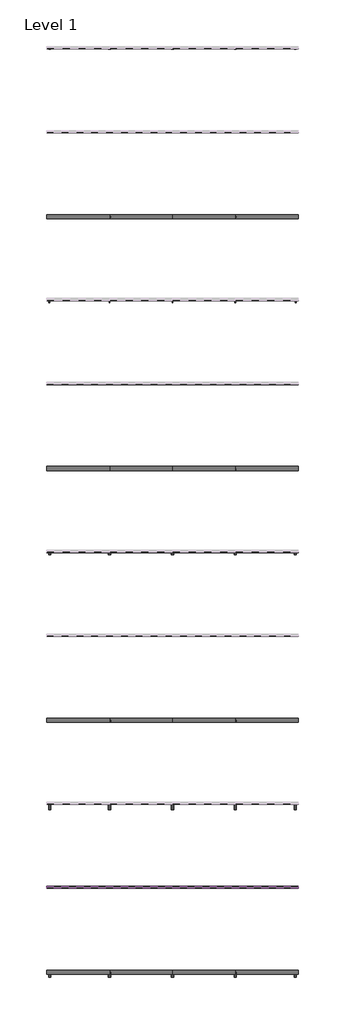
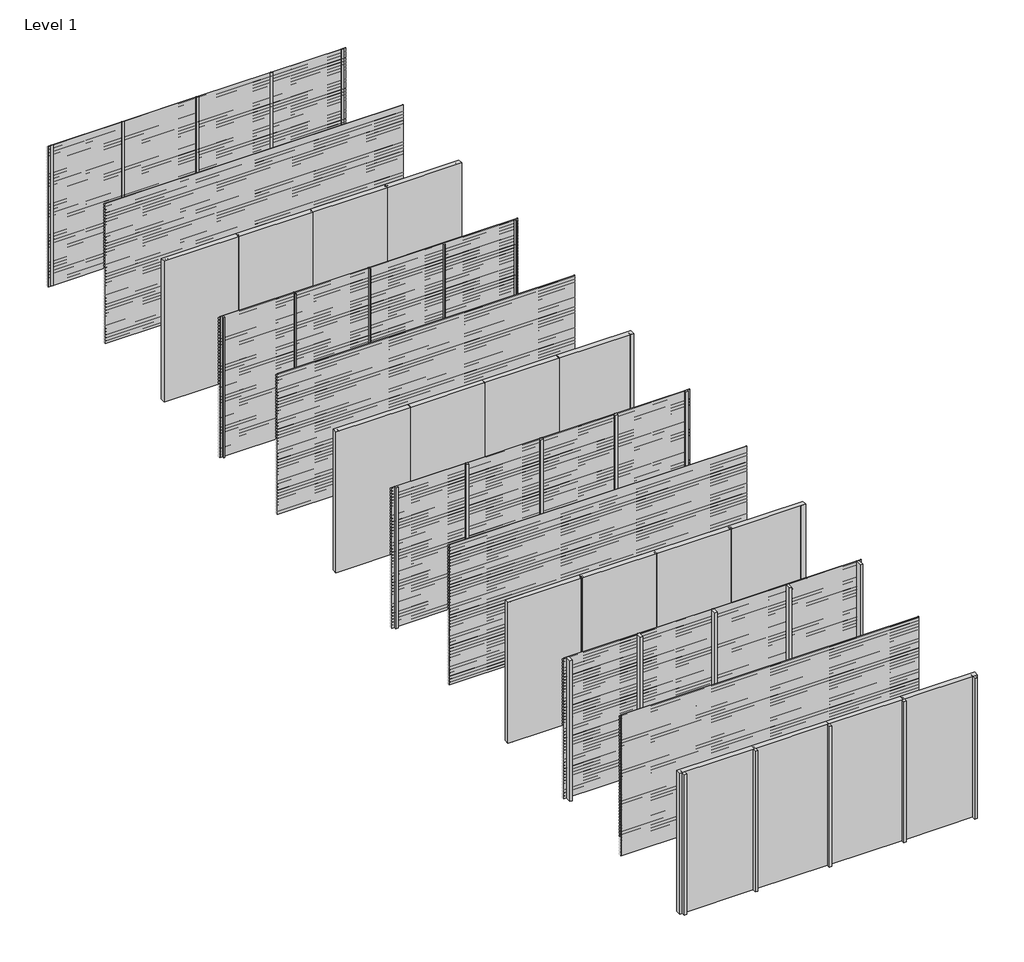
# One storey, part 1 of 10: 40 members, 40 proxies, 36 plates.
"""IFC4 building model written with IfcOpenShell, lengths in millimetres."""

from ifc_helpers import new_model, si_unit, frame, origin, origin_with_axes, place, context, project, spatial, polyline, outline, extrude, transform, mapped, element, save
from components import rectangular_mullion_bbbcbd30, rectangular_mullion_f8d4a220, rectangular_mullion_81aaf6fe, rectangular_mullion_6e08dc26, rectangular_mullion_75c52e10, rectangular_mullion_40295cf1, rectangular_mullion_7f158cb3, rectangular_mullion_66519e13, rectangular_mullion_5829b51c, rectangular_mullion_3b5b8a15, rectangular_mullion_81543344, rectangular_mullion_041a21c4, empty_system_panel_empty_ae16e1e1, empty_system_panel_empty_4cf993bc

model = new_model("IFC4")

# Units and contexts
model_context = context("Model", 3, world=origin())
ifc_project = project(units=[si_unit("LENGTHUNIT", "METRE", prefix="MILLI")], contexts=[model_context])

# Site, building, storey
site = spatial("IfcSite", under=ifc_project)
building = spatial("IfcBuilding", under=site)
storey = spatial("IfcBuildingStorey", under=building, Name="Level 1", Elevation=0.0)

# Proxies
placement = place(None, origin())
element("IfcBuildingElementProxy", 1, Name="Wall Sweeps", at=placement, inside=storey, context=model_context, shape_type="SweptSolid", body=[
    extrude(outline(polyline([(-19995.0, 2990.0), (-19995.0, 2981.2901632), (-19946.0, 2953.0), (-19946.0, 2918.0), (-19997.0, 2947.4448637), (-19997.0, 2990.0), (-19995.0, 2990.0)])), frame((0.0, 0.0, 0.0), z_axis=(1.0, 0.0, 0.0), x_axis=(0.0, 1.0, 0.0)), (0.0, 0.0, 1.0), 6000.0),
])
element("IfcBuildingElementProxy", 2, Name="Wall Sweeps", at=placement, inside=storey, context=model_context, shape_type="SweptSolid", body=[
    extrude(outline(polyline([(-19995.0, 2925.0), (-19995.0, 2916.2901632), (-19946.0, 2888.0), (-19946.0, 2853.0), (-19997.0, 2882.4448637), (-19997.0, 2925.0), (-19995.0, 2925.0)])), frame((0.0, 0.0, 0.0), z_axis=(1.0, 0.0, 0.0), x_axis=(0.0, 1.0, 0.0)), (0.0, 0.0, 1.0), 6000.0),
])
element("IfcBuildingElementProxy", 3, Name="Wall Sweeps", at=placement, inside=storey, context=model_context, shape_type="SweptSolid", body=[
    extrude(outline(polyline([(-19995.0, 2860.0), (-19995.0, 2851.2901632), (-19946.0, 2823.0), (-19946.0, 2788.0), (-19997.0, 2817.4448637), (-19997.0, 2860.0), (-19995.0, 2860.0)])), frame((0.0, 0.0, 0.0), z_axis=(1.0, 0.0, 0.0), x_axis=(0.0, 1.0, 0.0)), (0.0, 0.0, 1.0), 6000.0),
])
element("IfcBuildingElementProxy", 4, Name="Wall Sweeps", at=placement, inside=storey, context=model_context, shape_type="SweptSolid", body=[
    extrude(outline(polyline([(-19995.0, 2795.0), (-19995.0, 2786.2901632), (-19946.0, 2758.0), (-19946.0, 2723.0), (-19997.0, 2752.4448637), (-19997.0, 2795.0), (-19995.0, 2795.0)])), frame((0.0, 0.0, 0.0), z_axis=(1.0, 0.0, 0.0), x_axis=(0.0, 1.0, 0.0)), (0.0, 0.0, 1.0), 6000.0),
])
element("IfcBuildingElementProxy", 5, Name="Wall Sweeps", at=placement, inside=storey, context=model_context, shape_type="SweptSolid", body=[
    extrude(outline(polyline([(-19995.0, 2730.0), (-19995.0, 2721.2901632), (-19946.0, 2693.0), (-19946.0, 2658.0), (-19997.0, 2687.4448637), (-19997.0, 2730.0), (-19995.0, 2730.0)])), frame((0.0, 0.0, 0.0), z_axis=(1.0, 0.0, 0.0), x_axis=(0.0, 1.0, 0.0)), (0.0, 0.0, 1.0), 6000.0),
])
element("IfcBuildingElementProxy", 6, Name="Wall Sweeps", at=placement, inside=storey, context=model_context, shape_type="SweptSolid", body=[
    extrude(outline(polyline([(-19995.0, 2665.0), (-19995.0, 2656.2901632), (-19946.0, 2628.0), (-19946.0, 2593.0), (-19997.0, 2622.4448637), (-19997.0, 2665.0), (-19995.0, 2665.0)])), frame((0.0, 0.0, 0.0), z_axis=(1.0, 0.0, 0.0), x_axis=(0.0, 1.0, 0.0)), (0.0, 0.0, 1.0), 6000.0),
])
element("IfcBuildingElementProxy", 7, Name="Wall Sweeps", at=placement, inside=storey, context=model_context, shape_type="SweptSolid", body=[
    extrude(outline(polyline([(-19995.0, 2600.0), (-19995.0, 2591.2901632), (-19946.0, 2563.0), (-19946.0, 2528.0), (-19997.0, 2557.4448637), (-19997.0, 2600.0), (-19995.0, 2600.0)])), frame((0.0, 0.0, 0.0), z_axis=(1.0, 0.0, 0.0), x_axis=(0.0, 1.0, 0.0)), (0.0, 0.0, 1.0), 6000.0),
])
element("IfcBuildingElementProxy", 8, Name="Wall Sweeps", at=placement, inside=storey, context=model_context, shape_type="SweptSolid", body=[
    extrude(outline(polyline([(-19995.0, 2535.0), (-19995.0, 2526.2901632), (-19946.0, 2498.0), (-19946.0, 2463.0), (-19997.0, 2492.4448637), (-19997.0, 2535.0), (-19995.0, 2535.0)])), frame((0.0, 0.0, 0.0), z_axis=(1.0, 0.0, 0.0), x_axis=(0.0, 1.0, 0.0)), (0.0, 0.0, 1.0), 6000.0),
])
element("IfcBuildingElementProxy", 9, Name="Wall Sweeps", at=placement, inside=storey, context=model_context, shape_type="SweptSolid", body=[
    extrude(outline(polyline([(-19995.0, 2470.0), (-19995.0, 2461.2901632), (-19946.0, 2433.0), (-19946.0, 2398.0), (-19997.0, 2427.4448637), (-19997.0, 2470.0), (-19995.0, 2470.0)])), frame((0.0, 0.0, 0.0), z_axis=(1.0, 0.0, 0.0), x_axis=(0.0, 1.0, 0.0)), (0.0, 0.0, 1.0), 6000.0),
])
element("IfcBuildingElementProxy", 10, Name="Wall Sweeps", at=placement, inside=storey, context=model_context, shape_type="SweptSolid", body=[
    extrude(outline(polyline([(-19995.0, 2405.0), (-19995.0, 2396.2901632), (-19946.0, 2368.0), (-19946.0, 2333.0), (-19997.0, 2362.4448637), (-19997.0, 2405.0), (-19995.0, 2405.0)])), frame((0.0, 0.0, 0.0), z_axis=(1.0, 0.0, 0.0), x_axis=(0.0, 1.0, 0.0)), (0.0, 0.0, 1.0), 6000.0),
])
element("IfcBuildingElementProxy", 11, Name="Wall Sweeps", at=placement, inside=storey, context=model_context, shape_type="SweptSolid", body=[
    extrude(outline(polyline([(-19995.0, 2340.0), (-19995.0, 2331.2901632), (-19946.0, 2303.0), (-19946.0, 2268.0), (-19997.0, 2297.4448637), (-19997.0, 2340.0), (-19995.0, 2340.0)])), frame((0.0, 0.0, 0.0), z_axis=(1.0, 0.0, 0.0), x_axis=(0.0, 1.0, 0.0)), (0.0, 0.0, 1.0), 6000.0),
])
element("IfcBuildingElementProxy", 12, Name="Wall Sweeps", at=placement, inside=storey, context=model_context, shape_type="SweptSolid", body=[
    extrude(outline(polyline([(-19995.0, 2275.0), (-19995.0, 2266.2901632), (-19946.0, 2238.0), (-19946.0, 2203.0), (-19997.0, 2232.4448637), (-19997.0, 2275.0), (-19995.0, 2275.0)])), frame((0.0, 0.0, 0.0), z_axis=(1.0, 0.0, 0.0), x_axis=(0.0, 1.0, 0.0)), (0.0, 0.0, 1.0), 6000.0),
])
element("IfcBuildingElementProxy", 13, Name="Wall Sweeps", at=placement, inside=storey, context=model_context, shape_type="SweptSolid", body=[
    extrude(outline(polyline([(-19995.0, 2210.0), (-19995.0, 2201.2901632), (-19946.0, 2173.0), (-19946.0, 2138.0), (-19997.0, 2167.4448637), (-19997.0, 2210.0), (-19995.0, 2210.0)])), frame((0.0, 0.0, 0.0), z_axis=(1.0, 0.0, 0.0), x_axis=(0.0, 1.0, 0.0)), (0.0, 0.0, 1.0), 6000.0),
])
element("IfcBuildingElementProxy", 14, Name="Wall Sweeps", at=placement, inside=storey, context=model_context, shape_type="SweptSolid", body=[
    extrude(outline(polyline([(-19995.0, 2145.0), (-19995.0, 2136.2901632), (-19946.0, 2108.0), (-19946.0, 2073.0), (-19997.0, 2102.4448637), (-19997.0, 2145.0), (-19995.0, 2145.0)])), frame((0.0, 0.0, 0.0), z_axis=(1.0, 0.0, 0.0), x_axis=(0.0, 1.0, 0.0)), (0.0, 0.0, 1.0), 6000.0),
])
element("IfcBuildingElementProxy", 15, Name="Wall Sweeps", at=placement, inside=storey, context=model_context, shape_type="SweptSolid", body=[
    extrude(outline(polyline([(-19995.0, 2080.0), (-19995.0, 2071.2901632), (-19946.0, 2043.0), (-19946.0, 2008.0), (-19997.0, 2037.4448637), (-19997.0, 2080.0), (-19995.0, 2080.0)])), frame((0.0, 0.0, 0.0), z_axis=(1.0, 0.0, 0.0), x_axis=(0.0, 1.0, 0.0)), (0.0, 0.0, 1.0), 6000.0),
])
element("IfcBuildingElementProxy", 16, Name="Wall Sweeps", at=placement, inside=storey, context=model_context, shape_type="SweptSolid", body=[
    extrude(outline(polyline([(-19995.0, 2015.0), (-19995.0, 2006.2901632), (-19946.0, 1978.0), (-19946.0, 1943.0), (-19997.0, 1972.4448637), (-19997.0, 2015.0), (-19995.0, 2015.0)])), frame((0.0, 0.0, 0.0), z_axis=(1.0, 0.0, 0.0), x_axis=(0.0, 1.0, 0.0)), (0.0, 0.0, 1.0), 6000.0),
])
element("IfcBuildingElementProxy", 17, Name="Wall Sweeps", at=placement, inside=storey, context=model_context, shape_type="SweptSolid", body=[
    extrude(outline(polyline([(-19995.0, 1950.0), (-19995.0, 1941.2901632), (-19946.0, 1913.0), (-19946.0, 1878.0), (-19997.0, 1907.4448637), (-19997.0, 1950.0), (-19995.0, 1950.0)])), frame((0.0, 0.0, 0.0), z_axis=(1.0, 0.0, 0.0), x_axis=(0.0, 1.0, 0.0)), (0.0, 0.0, 1.0), 6000.0),
])
element("IfcBuildingElementProxy", 18, Name="Wall Sweeps", at=placement, inside=storey, context=model_context, shape_type="SweptSolid", body=[
    extrude(outline(polyline([(-19995.0, 1885.0), (-19995.0, 1876.2901632), (-19946.0, 1848.0), (-19946.0, 1813.0), (-19997.0, 1842.4448637), (-19997.0, 1885.0), (-19995.0, 1885.0)])), frame((0.0, 0.0, 0.0), z_axis=(1.0, 0.0, 0.0), x_axis=(0.0, 1.0, 0.0)), (0.0, 0.0, 1.0), 6000.0),
])
element("IfcBuildingElementProxy", 19, Name="Wall Sweeps", at=placement, inside=storey, context=model_context, shape_type="SweptSolid", body=[
    extrude(outline(polyline([(-19995.0, 1820.0), (-19995.0, 1811.2901632), (-19946.0, 1783.0), (-19946.0, 1748.0), (-19997.0, 1777.4448637), (-19997.0, 1820.0), (-19995.0, 1820.0)])), frame((0.0, 0.0, 0.0), z_axis=(1.0, 0.0, 0.0), x_axis=(0.0, 1.0, 0.0)), (0.0, 0.0, 1.0), 6000.0),
])
element("IfcBuildingElementProxy", 20, Name="Wall Sweeps", at=placement, inside=storey, context=model_context, shape_type="SweptSolid", body=[
    extrude(outline(polyline([(-19995.0, 1755.0), (-19995.0, 1746.2901632), (-19946.0, 1718.0), (-19946.0, 1683.0), (-19997.0, 1712.4448637), (-19997.0, 1755.0), (-19995.0, 1755.0)])), frame((0.0, 0.0, 0.0), z_axis=(1.0, 0.0, 0.0), x_axis=(0.0, 1.0, 0.0)), (0.0, 0.0, 1.0), 6000.0),
])
element("IfcBuildingElementProxy", 21, Name="Wall Sweeps", at=placement, inside=storey, context=model_context, shape_type="SweptSolid", body=[
    extrude(outline(polyline([(-19995.0, 1690.0), (-19995.0, 1681.2901632), (-19946.0, 1653.0), (-19946.0, 1618.0), (-19997.0, 1647.4448637), (-19997.0, 1690.0), (-19995.0, 1690.0)])), frame((0.0, 0.0, 0.0), z_axis=(1.0, 0.0, 0.0), x_axis=(0.0, 1.0, 0.0)), (0.0, 0.0, 1.0), 6000.0),
])
element("IfcBuildingElementProxy", 22, Name="Wall Sweeps", at=placement, inside=storey, context=model_context, shape_type="SweptSolid", body=[
    extrude(outline(polyline([(-19995.0, 1625.0), (-19995.0, 1616.2901632), (-19946.0, 1588.0), (-19946.0, 1553.0), (-19997.0, 1582.4448637), (-19997.0, 1625.0), (-19995.0, 1625.0)])), frame((0.0, 0.0, 0.0), z_axis=(1.0, 0.0, 0.0), x_axis=(0.0, 1.0, 0.0)), (0.0, 0.0, 1.0), 6000.0),
])
element("IfcBuildingElementProxy", 23, Name="Wall Sweeps", at=placement, inside=storey, context=model_context, shape_type="SweptSolid", body=[
    extrude(outline(polyline([(-19995.0, 1560.0), (-19995.0, 1551.2901632), (-19946.0, 1523.0), (-19946.0, 1488.0), (-19997.0, 1517.4448637), (-19997.0, 1560.0), (-19995.0, 1560.0)])), frame((0.0, 0.0, 0.0), z_axis=(1.0, 0.0, 0.0), x_axis=(0.0, 1.0, 0.0)), (0.0, 0.0, 1.0), 6000.0),
])
element("IfcBuildingElementProxy", 24, Name="Wall Sweeps", at=placement, inside=storey, context=model_context, shape_type="SweptSolid", body=[
    extrude(outline(polyline([(-19995.0, 1495.0), (-19995.0, 1486.2901632), (-19946.0, 1458.0), (-19946.0, 1423.0), (-19997.0, 1452.4448637), (-19997.0, 1495.0), (-19995.0, 1495.0)])), frame((0.0, 0.0, 0.0), z_axis=(1.0, 0.0, 0.0), x_axis=(0.0, 1.0, 0.0)), (0.0, 0.0, 1.0), 6000.0),
])
element("IfcBuildingElementProxy", 25, Name="Wall Sweeps", at=placement, inside=storey, context=model_context, shape_type="SweptSolid", body=[
    extrude(outline(polyline([(-19995.0, 1430.0), (-19995.0, 1421.2901632), (-19946.0, 1393.0), (-19946.0, 1358.0), (-19997.0, 1387.4448637), (-19997.0, 1430.0), (-19995.0, 1430.0)])), frame((0.0, 0.0, 0.0), z_axis=(1.0, 0.0, 0.0), x_axis=(0.0, 1.0, 0.0)), (0.0, 0.0, 1.0), 6000.0),
])
element("IfcBuildingElementProxy", 26, Name="Wall Sweeps", at=placement, inside=storey, context=model_context, shape_type="SweptSolid", body=[
    extrude(outline(polyline([(-19995.0, 1365.0), (-19995.0, 1356.2901632), (-19946.0, 1328.0), (-19946.0, 1293.0), (-19997.0, 1322.4448637), (-19997.0, 1365.0), (-19995.0, 1365.0)])), frame((0.0, 0.0, 0.0), z_axis=(1.0, 0.0, 0.0), x_axis=(0.0, 1.0, 0.0)), (0.0, 0.0, 1.0), 6000.0),
])
element("IfcBuildingElementProxy", 27, Name="Wall Sweeps", at=placement, inside=storey, context=model_context, shape_type="SweptSolid", body=[
    extrude(outline(polyline([(-19995.0, 1300.0), (-19995.0, 1291.2901632), (-19946.0, 1263.0), (-19946.0, 1228.0), (-19997.0, 1257.4448637), (-19997.0, 1300.0), (-19995.0, 1300.0)])), frame((0.0, 0.0, 0.0), z_axis=(1.0, 0.0, 0.0), x_axis=(0.0, 1.0, 0.0)), (0.0, 0.0, 1.0), 6000.0),
])
element("IfcBuildingElementProxy", 28, Name="Wall Sweeps", at=placement, inside=storey, context=model_context, shape_type="SweptSolid", body=[
    extrude(outline(polyline([(-19995.0, 1235.0), (-19995.0, 1226.2901632), (-19946.0, 1198.0), (-19946.0, 1163.0), (-19997.0, 1192.4448637), (-19997.0, 1235.0), (-19995.0, 1235.0)])), frame((0.0, 0.0, 0.0), z_axis=(1.0, 0.0, 0.0), x_axis=(0.0, 1.0, 0.0)), (0.0, 0.0, 1.0), 6000.0),
])
element("IfcBuildingElementProxy", 29, Name="Wall Sweeps", at=placement, inside=storey, context=model_context, shape_type="SweptSolid", body=[
    extrude(outline(polyline([(-19995.0, 1170.0), (-19995.0, 1161.2901632), (-19946.0, 1133.0), (-19946.0, 1098.0), (-19997.0, 1127.4448637), (-19997.0, 1170.0), (-19995.0, 1170.0)])), frame((0.0, 0.0, 0.0), z_axis=(1.0, 0.0, 0.0), x_axis=(0.0, 1.0, 0.0)), (0.0, 0.0, 1.0), 6000.0),
])
element("IfcBuildingElementProxy", 30, Name="Wall Sweeps", at=placement, inside=storey, context=model_context, shape_type="SweptSolid", body=[
    extrude(outline(polyline([(-19995.0, 1105.0), (-19995.0, 1096.2901632), (-19946.0, 1068.0), (-19946.0, 1033.0), (-19997.0, 1062.4448637), (-19997.0, 1105.0), (-19995.0, 1105.0)])), frame((0.0, 0.0, 0.0), z_axis=(1.0, 0.0, 0.0), x_axis=(0.0, 1.0, 0.0)), (0.0, 0.0, 1.0), 6000.0),
])
element("IfcBuildingElementProxy", 31, Name="Wall Sweeps", at=placement, inside=storey, context=model_context, shape_type="SweptSolid", body=[
    extrude(outline(polyline([(-19995.0, 1040.0), (-19995.0, 1031.2901632), (-19946.0, 1003.0), (-19946.0, 968.0), (-19997.0, 997.4448637), (-19997.0, 1040.0), (-19995.0, 1040.0)])), frame((0.0, 0.0, 0.0), z_axis=(1.0, 0.0, 0.0), x_axis=(0.0, 1.0, 0.0)), (0.0, 0.0, 1.0), 6000.0),
])
element("IfcBuildingElementProxy", 32, Name="Wall Sweeps", at=placement, inside=storey, context=model_context, shape_type="SweptSolid", body=[
    extrude(outline(polyline([(-19995.0, 975.0), (-19995.0, 966.2901632), (-19946.0, 938.0), (-19946.0, 903.0), (-19997.0, 932.4448637), (-19997.0, 975.0), (-19995.0, 975.0)])), frame((0.0, 0.0, 0.0), z_axis=(1.0, 0.0, 0.0), x_axis=(0.0, 1.0, 0.0)), (0.0, 0.0, 1.0), 6000.0),
])
element("IfcBuildingElementProxy", 33, Name="Wall Sweeps", at=placement, inside=storey, context=model_context, shape_type="SweptSolid", body=[
    extrude(outline(polyline([(-19995.0, 910.0), (-19995.0, 901.2901632), (-19946.0, 873.0), (-19946.0, 838.0), (-19997.0, 867.4448637), (-19997.0, 910.0), (-19995.0, 910.0)])), frame((0.0, 0.0, 0.0), z_axis=(1.0, 0.0, 0.0), x_axis=(0.0, 1.0, 0.0)), (0.0, 0.0, 1.0), 6000.0),
])
element("IfcBuildingElementProxy", 34, Name="Wall Sweeps", at=placement, inside=storey, context=model_context, shape_type="SweptSolid", body=[
    extrude(outline(polyline([(-19995.0, 845.0), (-19995.0, 836.2901632), (-19946.0, 808.0), (-19946.0, 773.0), (-19997.0, 802.4448637), (-19997.0, 845.0), (-19995.0, 845.0)])), frame((0.0, 0.0, 0.0), z_axis=(1.0, 0.0, 0.0), x_axis=(0.0, 1.0, 0.0)), (0.0, 0.0, 1.0), 6000.0),
])
element("IfcBuildingElementProxy", 35, Name="Wall Sweeps", at=placement, inside=storey, context=model_context, shape_type="SweptSolid", body=[
    extrude(outline(polyline([(-19995.0, 780.0), (-19995.0, 771.2901632), (-19946.0, 743.0), (-19946.0, 708.0), (-19997.0, 737.4448637), (-19997.0, 780.0), (-19995.0, 780.0)])), frame((0.0, 0.0, 0.0), z_axis=(1.0, 0.0, 0.0), x_axis=(0.0, 1.0, 0.0)), (0.0, 0.0, 1.0), 6000.0),
])
element("IfcBuildingElementProxy", 36, Name="Wall Sweeps", at=placement, inside=storey, context=model_context, shape_type="SweptSolid", body=[
    extrude(outline(polyline([(-19995.0, 715.0), (-19995.0, 706.2901632), (-19946.0, 678.0), (-19946.0, 643.0), (-19997.0, 672.4448637), (-19997.0, 715.0), (-19995.0, 715.0)])), frame((0.0, 0.0, 0.0), z_axis=(1.0, 0.0, 0.0), x_axis=(0.0, 1.0, 0.0)), (0.0, 0.0, 1.0), 6000.0),
])
element("IfcBuildingElementProxy", 37, Name="Wall Sweeps", at=placement, inside=storey, context=model_context, shape_type="SweptSolid", body=[
    extrude(outline(polyline([(-19995.0, 650.0), (-19995.0, 641.2901632), (-19946.0, 613.0), (-19946.0, 578.0), (-19997.0, 607.4448637), (-19997.0, 650.0), (-19995.0, 650.0)])), frame((0.0, 0.0, 0.0), z_axis=(1.0, 0.0, 0.0), x_axis=(0.0, 1.0, 0.0)), (0.0, 0.0, 1.0), 6000.0),
])
element("IfcBuildingElementProxy", 38, Name="Wall Sweeps", at=placement, inside=storey, context=model_context, shape_type="SweptSolid", body=[
    extrude(outline(polyline([(-19995.0, 585.0), (-19995.0, 576.2901632), (-19946.0, 548.0), (-19946.0, 513.0), (-19997.0, 542.4448637), (-19997.0, 585.0), (-19995.0, 585.0)])), frame((0.0, 0.0, 0.0), z_axis=(1.0, 0.0, 0.0), x_axis=(0.0, 1.0, 0.0)), (0.0, 0.0, 1.0), 6000.0),
])
element("IfcBuildingElementProxy", 39, Name="Wall Sweeps", at=placement, inside=storey, context=model_context, shape_type="SweptSolid", body=[
    extrude(outline(polyline([(-19995.0, 520.0), (-19995.0, 511.2901632), (-19946.0, 483.0), (-19946.0, 448.0), (-19997.0, 477.4448637), (-19997.0, 520.0), (-19995.0, 520.0)])), frame((0.0, 0.0, 0.0), z_axis=(1.0, 0.0, 0.0), x_axis=(0.0, 1.0, 0.0)), (0.0, 0.0, 1.0), 6000.0),
])
element("IfcBuildingElementProxy", 40, Name="Wall Sweeps", at=placement, inside=storey, context=model_context, shape_type="SweptSolid", body=[
    extrude(outline(polyline([(-19995.0, 455.0), (-19995.0, 446.2901632), (-19946.0, 418.0), (-19946.0, 383.0), (-19997.0, 412.4448637), (-19997.0, 455.0), (-19995.0, 455.0)])), frame((0.0, 0.0, 0.0), z_axis=(1.0, 0.0, 0.0), x_axis=(0.0, 1.0, 0.0)), (0.0, 0.0, 1.0), 6000.0),
])

# Members
rectangular_mullion_shape = rectangular_mullion_bbbcbd30(model_context)
element("IfcMember", 41, ObjectType="Rectangular Mullion : RSen_21_CWM_support profile - 50x12 - left_gen_duco projects", at=placement, inside=storey, context=model_context, shape_type="MappedRepresentation", body=[
    mapped(rectangular_mullion_shape, transform((0.0, 0.0, 0.0), x_axis=(-1.0, 0.0, 0.0), y_axis=(0.0, 1.0, 0.0), z_axis=(0.0, 0.0, -1.0))),
])
element("IfcMember", 42, ObjectType="Rectangular Mullion : RSen_21_CWM_support profile - 50x12 - left_gen_duco projects", at=placement, inside=storey, context=model_context, shape_type="MappedRepresentation", body=[
    mapped(rectangular_mullion_shape, transform((0.0, -4000.0, 0.0), x_axis=(-1.0, 0.0, 0.0), y_axis=(0.0, 1.0, 0.0), z_axis=(0.0, 0.0, -1.0))),
])
rectangular_mullion_2_shape = rectangular_mullion_f8d4a220(model_context)
element("IfcMember", 43, ObjectType="Rectangular Mullion : RSen_21_CWM_support profile - 50x12 - right_gen_duco projects", at=placement, inside=storey, context=model_context, shape_type="MappedRepresentation", body=[
    mapped(rectangular_mullion_2_shape, transform((6000.0, 0.0, 3000.0), x_axis=(1.0, 0.0, 0.0), y_axis=(0.0, 1.0, 0.0), z_axis=(0.0, 0.0, 1.0))),
])
element("IfcMember", 44, ObjectType="Rectangular Mullion : RSen_21_CWM_support profile - 50x12 - right_gen_duco projects", at=placement, inside=storey, context=model_context, shape_type="MappedRepresentation", body=[
    mapped(rectangular_mullion_2_shape, transform((6000.0, -4000.0, 3000.0), x_axis=(1.0, 0.0, 0.0), y_axis=(0.0, 1.0, 0.0), z_axis=(0.0, 0.0, 1.0))),
])
rectangular_mullion_3_shape = rectangular_mullion_81aaf6fe(model_context)
element("IfcMember", 45, ObjectType="Rectangular Mullion : RSen_21_CWM_support profile - 21x50 Multi - left_gen_duco projects", at=placement, inside=storey, context=model_context, shape_type="MappedRepresentation", body=[
    mapped(rectangular_mullion_3_shape, transform((0.0, -6000.0, 0.0), x_axis=(-1.0, 0.0, 0.0), y_axis=(0.0, 1.0, 0.0), z_axis=(0.0, 0.0, -1.0))),
])
element("IfcMember", 46, ObjectType="Rectangular Mullion : RSen_21_CWM_support profile - 21x50 Multi - left_gen_duco projects", at=placement, inside=storey, context=model_context, shape_type="MappedRepresentation", body=[
    mapped(rectangular_mullion_3_shape, transform((0.0, -10000.0, 0.0), x_axis=(-1.0, 0.0, 0.0), y_axis=(0.0, 1.0, 0.0), z_axis=(0.0, 0.0, -1.0))),
])
rectangular_mullion_4_shape = rectangular_mullion_6e08dc26(model_context)
element("IfcMember", 47, ObjectType="Rectangular Mullion : RSen_21_CWM_support profile - 21x50 Multi - right_gen_duco projects", at=placement, inside=storey, context=model_context, shape_type="MappedRepresentation", body=[
    mapped(rectangular_mullion_4_shape, transform((6000.0, -6000.0, 3000.0), x_axis=(1.0, 0.0, 0.0), y_axis=(0.0, 1.0, 0.0), z_axis=(0.0, 0.0, 1.0))),
])
element("IfcMember", 48, ObjectType="Rectangular Mullion : RSen_21_CWM_support profile - 21x50 Multi - right_gen_duco projects", at=placement, inside=storey, context=model_context, shape_type="MappedRepresentation", body=[
    mapped(rectangular_mullion_4_shape, transform((6000.0, -10000.0, 3000.0), x_axis=(1.0, 0.0, 0.0), y_axis=(0.0, 1.0, 0.0), z_axis=(0.0, 0.0, 1.0))),
])
rectangular_mullion_5_shape = rectangular_mullion_75c52e10(model_context)
element("IfcMember", 49, ObjectType="Rectangular Mullion : RSen_21_CWM_support profile - 50x50 - left_gen_duco projects", at=placement, inside=storey, context=model_context, shape_type="MappedRepresentation", body=[
    mapped(rectangular_mullion_5_shape, transform((0.0, -12000.0, 0.0), x_axis=(-1.0, 0.0, 0.0), y_axis=(0.0, 1.0, 0.0), z_axis=(0.0, 0.0, -1.0))),
])
element("IfcMember", 50, ObjectType="Rectangular Mullion : RSen_21_CWM_support profile - 50x50 - left_gen_duco projects", at=placement, inside=storey, context=model_context, shape_type="MappedRepresentation", body=[
    mapped(rectangular_mullion_5_shape, transform((0.0, -16000.0, 0.0), x_axis=(-1.0, 0.0, 0.0), y_axis=(0.0, 1.0, 0.0), z_axis=(0.0, 0.0, -1.0))),
])
rectangular_mullion_6_shape = rectangular_mullion_40295cf1(model_context)
element("IfcMember", 51, ObjectType="Rectangular Mullion : RSen_21_CWM_support profile - 50x50 - right_gen_duco projects", at=placement, inside=storey, context=model_context, shape_type="MappedRepresentation", body=[
    mapped(rectangular_mullion_6_shape, transform((6000.0, -12000.0, 3000.0), x_axis=(1.0, 0.0, 0.0), y_axis=(0.0, 1.0, 0.0), z_axis=(0.0, 0.0, 1.0))),
])
element("IfcMember", 52, ObjectType="Rectangular Mullion : RSen_21_CWM_support profile - 50x50 - right_gen_duco projects", at=placement, inside=storey, context=model_context, shape_type="MappedRepresentation", body=[
    mapped(rectangular_mullion_6_shape, transform((6000.0, -16000.0, 3000.0), x_axis=(1.0, 0.0, 0.0), y_axis=(0.0, 1.0, 0.0), z_axis=(0.0, 0.0, 1.0))),
])
rectangular_mullion_7_shape = rectangular_mullion_7f158cb3(model_context)
element("IfcMember", 53, ObjectType="Rectangular Mullion : RSen_21_CWM_support profile - 50x12_gen_duco projects", at=placement, inside=storey, context=model_context, shape_type="MappedRepresentation", body=[
    mapped(rectangular_mullion_7_shape, transform((4500.0, 0.0, 0.0), x_axis=(-1.0, 0.0, 0.0), y_axis=(0.0, 1.0, 0.0), z_axis=(0.0, 0.0, -1.0))),
])
element("IfcMember", 54, ObjectType="Rectangular Mullion : RSen_21_CWM_support profile - 50x12_gen_duco projects", at=placement, inside=storey, context=model_context, shape_type="MappedRepresentation", body=[
    mapped(rectangular_mullion_7_shape, transform((3000.0, 0.0, 0.0), x_axis=(-1.0, 0.0, 0.0), y_axis=(0.0, 1.0, 0.0), z_axis=(0.0, 0.0, -1.0))),
])
element("IfcMember", 55, ObjectType="Rectangular Mullion : RSen_21_CWM_support profile - 50x12_gen_duco projects", at=placement, inside=storey, context=model_context, shape_type="MappedRepresentation", body=[
    mapped(rectangular_mullion_7_shape, transform((1500.0, 0.0, 0.0), x_axis=(-1.0, 0.0, 0.0), y_axis=(0.0, 1.0, 0.0), z_axis=(0.0, 0.0, -1.0))),
])
element("IfcMember", 56, ObjectType="Rectangular Mullion : RSen_21_CWM_support profile - 50x12_gen_duco projects", at=placement, inside=storey, context=model_context, shape_type="MappedRepresentation", body=[
    mapped(rectangular_mullion_7_shape, transform((4500.0, -4000.0, 0.0), x_axis=(-1.0, 0.0, 0.0), y_axis=(0.0, 1.0, 0.0), z_axis=(0.0, 0.0, -1.0))),
])
element("IfcMember", 57, ObjectType="Rectangular Mullion : RSen_21_CWM_support profile - 50x12_gen_duco projects", at=placement, inside=storey, context=model_context, shape_type="MappedRepresentation", body=[
    mapped(rectangular_mullion_7_shape, transform((3000.0, -4000.0, 0.0), x_axis=(-1.0, 0.0, 0.0), y_axis=(0.0, 1.0, 0.0), z_axis=(0.0, 0.0, -1.0))),
])
element("IfcMember", 58, ObjectType="Rectangular Mullion : RSen_21_CWM_support profile - 50x12_gen_duco projects", at=placement, inside=storey, context=model_context, shape_type="MappedRepresentation", body=[
    mapped(rectangular_mullion_7_shape, transform((1500.0, -4000.0, 0.0), x_axis=(-1.0, 0.0, 0.0), y_axis=(0.0, 1.0, 0.0), z_axis=(0.0, 0.0, -1.0))),
])
rectangular_mullion_8_shape = rectangular_mullion_66519e13(model_context)
element("IfcMember", 59, ObjectType="Rectangular Mullion : RSen_21_CWM_support profile - 21x50 Multi_gen_duco projects", at=placement, inside=storey, context=model_context, shape_type="MappedRepresentation", body=[
    mapped(rectangular_mullion_8_shape, transform((4500.0, -6000.0, 0.0), x_axis=(-1.0, 0.0, 0.0), y_axis=(0.0, 1.0, 0.0), z_axis=(0.0, 0.0, -1.0))),
])
element("IfcMember", 60, ObjectType="Rectangular Mullion : RSen_21_CWM_support profile - 21x50 Multi_gen_duco projects", at=placement, inside=storey, context=model_context, shape_type="MappedRepresentation", body=[
    mapped(rectangular_mullion_8_shape, transform((3000.0, -6000.0, 0.0), x_axis=(-1.0, 0.0, 0.0), y_axis=(0.0, 1.0, 0.0), z_axis=(0.0, 0.0, -1.0))),
])
element("IfcMember", 61, ObjectType="Rectangular Mullion : RSen_21_CWM_support profile - 21x50 Multi_gen_duco projects", at=placement, inside=storey, context=model_context, shape_type="MappedRepresentation", body=[
    mapped(rectangular_mullion_8_shape, transform((1500.0, -6000.0, 0.0), x_axis=(-1.0, 0.0, 0.0), y_axis=(0.0, 1.0, 0.0), z_axis=(0.0, 0.0, -1.0))),
])
element("IfcMember", 62, ObjectType="Rectangular Mullion : RSen_21_CWM_support profile - 21x50 Multi_gen_duco projects", at=placement, inside=storey, context=model_context, shape_type="MappedRepresentation", body=[
    mapped(rectangular_mullion_8_shape, transform((4500.0, -10000.0, 0.0), x_axis=(-1.0, 0.0, 0.0), y_axis=(0.0, 1.0, 0.0), z_axis=(0.0, 0.0, -1.0))),
])
element("IfcMember", 63, ObjectType="Rectangular Mullion : RSen_21_CWM_support profile - 21x50 Multi_gen_duco projects", at=placement, inside=storey, context=model_context, shape_type="MappedRepresentation", body=[
    mapped(rectangular_mullion_8_shape, transform((3000.0, -10000.0, 0.0), x_axis=(-1.0, 0.0, 0.0), y_axis=(0.0, 1.0, 0.0), z_axis=(0.0, 0.0, -1.0))),
])
element("IfcMember", 64, ObjectType="Rectangular Mullion : RSen_21_CWM_support profile - 21x50 Multi_gen_duco projects", at=placement, inside=storey, context=model_context, shape_type="MappedRepresentation", body=[
    mapped(rectangular_mullion_8_shape, transform((1500.0, -10000.0, 0.0), x_axis=(-1.0, 0.0, 0.0), y_axis=(0.0, 1.0, 0.0), z_axis=(0.0, 0.0, -1.0))),
])
rectangular_mullion_9_shape = rectangular_mullion_5829b51c(model_context)
element("IfcMember", 65, ObjectType="Rectangular Mullion : RSen_21_CWM_support profile - 50x50_gen_duco projects", at=placement, inside=storey, context=model_context, shape_type="MappedRepresentation", body=[
    mapped(rectangular_mullion_9_shape, transform((4500.0, -12000.0, 0.0), x_axis=(-1.0, 0.0, 0.0), y_axis=(0.0, 1.0, 0.0), z_axis=(0.0, 0.0, -1.0))),
])
element("IfcMember", 66, ObjectType="Rectangular Mullion : RSen_21_CWM_support profile - 50x50_gen_duco projects", at=placement, inside=storey, context=model_context, shape_type="MappedRepresentation", body=[
    mapped(rectangular_mullion_9_shape, transform((3000.0, -12000.0, 0.0), x_axis=(-1.0, 0.0, 0.0), y_axis=(0.0, 1.0, 0.0), z_axis=(0.0, 0.0, -1.0))),
])
element("IfcMember", 67, ObjectType="Rectangular Mullion : RSen_21_CWM_support profile - 50x50_gen_duco projects", at=placement, inside=storey, context=model_context, shape_type="MappedRepresentation", body=[
    mapped(rectangular_mullion_9_shape, transform((1500.0, -12000.0, 0.0), x_axis=(-1.0, 0.0, 0.0), y_axis=(0.0, 1.0, 0.0), z_axis=(0.0, 0.0, -1.0))),
])
element("IfcMember", 68, ObjectType="Rectangular Mullion : RSen_21_CWM_support profile - 50x50_gen_duco projects", at=placement, inside=storey, context=model_context, shape_type="MappedRepresentation", body=[
    mapped(rectangular_mullion_9_shape, transform((4500.0, -16000.0, 0.0), x_axis=(-1.0, 0.0, 0.0), y_axis=(0.0, 1.0, 0.0), z_axis=(0.0, 0.0, -1.0))),
])
element("IfcMember", 69, ObjectType="Rectangular Mullion : RSen_21_CWM_support profile - 50x50_gen_duco projects", at=placement, inside=storey, context=model_context, shape_type="MappedRepresentation", body=[
    mapped(rectangular_mullion_9_shape, transform((3000.0, -16000.0, 0.0), x_axis=(-1.0, 0.0, 0.0), y_axis=(0.0, 1.0, 0.0), z_axis=(0.0, 0.0, -1.0))),
])
element("IfcMember", 70, ObjectType="Rectangular Mullion : RSen_21_CWM_support profile - 50x50_gen_duco projects", at=placement, inside=storey, context=model_context, shape_type="MappedRepresentation", body=[
    mapped(rectangular_mullion_9_shape, transform((1500.0, -16000.0, 0.0), x_axis=(-1.0, 0.0, 0.0), y_axis=(0.0, 1.0, 0.0), z_axis=(0.0, 0.0, -1.0))),
])
rectangular_mullion_10_shape = rectangular_mullion_3b5b8a15(model_context)
element("IfcMember", 71, ObjectType="Rectangular Mullion : RSen_21_CWM_support profile - 50x125_gen_duco projects", at=placement, inside=storey, context=model_context, shape_type="MappedRepresentation", body=[
    mapped(rectangular_mullion_10_shape, transform((1500.0000002, -18000.0, 0.0), x_axis=(1.0, 0.0, 0.0), y_axis=(0.0, -1.0, 0.0), z_axis=(0.0, 0.0, -1.0))),
])
element("IfcMember", 72, ObjectType="Rectangular Mullion : RSen_21_CWM_support profile - 50x125_gen_duco projects", at=placement, inside=storey, context=model_context, shape_type="MappedRepresentation", body=[
    mapped(rectangular_mullion_10_shape, transform((3000.0, -18000.0, 0.0), x_axis=(1.0, 0.0, 0.0), y_axis=(0.0, -1.0, 0.0), z_axis=(0.0, 0.0, -1.0))),
])
element("IfcMember", 73, ObjectType="Rectangular Mullion : RSen_21_CWM_support profile - 50x125_gen_duco projects", at=placement, inside=storey, context=model_context, shape_type="MappedRepresentation", body=[
    mapped(rectangular_mullion_10_shape, transform((4499.9999998, -18000.0, 0.0), x_axis=(1.0, 0.0, 0.0), y_axis=(0.0, -1.0, 0.0), z_axis=(0.0, 0.0, -1.0))),
])
element("IfcMember", 74, ObjectType="Rectangular Mullion : RSen_21_CWM_support profile - 50x125_gen_duco projects", at=placement, inside=storey, context=model_context, shape_type="MappedRepresentation", body=[
    mapped(rectangular_mullion_10_shape, transform((1500.0000002, -22000.0, 0.0), x_axis=(1.0, 0.0, 0.0), y_axis=(0.0, -1.0, 0.0), z_axis=(0.0, 0.0, -1.0))),
])
element("IfcMember", 75, ObjectType="Rectangular Mullion : RSen_21_CWM_support profile - 50x125_gen_duco projects", at=placement, inside=storey, context=model_context, shape_type="MappedRepresentation", body=[
    mapped(rectangular_mullion_10_shape, transform((3000.0, -22000.0, 0.0), x_axis=(1.0, 0.0, 0.0), y_axis=(0.0, -1.0, 0.0), z_axis=(0.0, 0.0, -1.0))),
])
element("IfcMember", 76, ObjectType="Rectangular Mullion : RSen_21_CWM_support profile - 50x125_gen_duco projects", at=placement, inside=storey, context=model_context, shape_type="MappedRepresentation", body=[
    mapped(rectangular_mullion_10_shape, transform((4499.9999998, -22000.0, 0.0), x_axis=(1.0, 0.0, 0.0), y_axis=(0.0, -1.0, 0.0), z_axis=(0.0, 0.0, -1.0))),
])
rectangular_mullion_11_shape = rectangular_mullion_81543344(model_context)
element("IfcMember", 77, ObjectType="Rectangular Mullion : RSen_21_CWM_support profile - 50x125 - left_gen_duco projects", at=placement, inside=storey, context=model_context, shape_type="MappedRepresentation", body=[
    mapped(rectangular_mullion_11_shape, transform((6000.0, -18000.0, 0.0), x_axis=(1.0, 0.0, 0.0), y_axis=(0.0, -1.0, 0.0), z_axis=(0.0, 0.0, -1.0))),
])
element("IfcMember", 78, ObjectType="Rectangular Mullion : RSen_21_CWM_support profile - 50x125 - left_gen_duco projects", at=placement, inside=storey, context=model_context, shape_type="MappedRepresentation", body=[
    mapped(rectangular_mullion_11_shape, transform((6000.0, -22000.0, 0.0), x_axis=(1.0, 0.0, 0.0), y_axis=(0.0, -1.0, 0.0), z_axis=(0.0, 0.0, -1.0))),
])
rectangular_mullion_12_shape = rectangular_mullion_041a21c4(model_context)
element("IfcMember", 79, ObjectType="Rectangular Mullion : RSen_21_CWM_support profile - 50x125 - right_gen_duco projects", at=placement, inside=storey, context=model_context, shape_type="MappedRepresentation", body=[
    mapped(rectangular_mullion_12_shape, transform((0.0, -18000.0, 3000.0), x_axis=(-1.0, 0.0, 0.0), y_axis=(0.0, -1.0, 0.0), z_axis=(0.0, 0.0, 1.0))),
])
element("IfcMember", 80, ObjectType="Rectangular Mullion : RSen_21_CWM_support profile - 50x125 - right_gen_duco projects", at=placement, inside=storey, context=model_context, shape_type="MappedRepresentation", body=[
    mapped(rectangular_mullion_12_shape, transform((0.0, -22000.0, 3000.0), x_axis=(-1.0, 0.0, 0.0), y_axis=(0.0, -1.0, 0.0), z_axis=(0.0, 0.0, 1.0))),
])

# Plates
element("IfcPlate", 81, ObjectType="RSen_21_WA_louvre blade classic W 50Z-30° -65_gen_duco projects", at=placement, inside=storey, context=model_context, shape_type="SweptSolid", body=[
    extrude(outline(polyline([(0.0, 1.0), (1500.0, 1.0), (1500.0, -1.0), (0.0, -1.0), (0.0, 1.0)])), origin_with_axes(), (0.0, 0.0, 1.0), 3000.0),
])
element("IfcPlate", 82, ObjectType="RSen_21_WA_louvre blade classic W 50Z-30° -65_gen_duco projects", at=placement, inside=storey, context=model_context, shape_type="SweptSolid", body=[
    extrude(outline(polyline([(1500.0, 1.0), (3000.0, 1.0), (3000.0, -1.0), (1500.0, -1.0), (1500.0, 1.0)])), origin_with_axes(), (0.0, 0.0, 1.0), 3000.0),
])
element("IfcPlate", 83, ObjectType="RSen_21_WA_louvre blade classic W 50Z-30° -65_gen_duco projects", at=placement, inside=storey, context=model_context, shape_type="SweptSolid", body=[
    extrude(outline(polyline([(3000.0, 1.0), (4500.0, 1.0), (4500.0, -1.0), (3000.0, -1.0), (3000.0, 1.0)])), origin_with_axes(), (0.0, 0.0, 1.0), 3000.0),
])
element("IfcPlate", 84, ObjectType="RSen_21_WA_louvre blade classic W 50Z-30° -65_gen_duco projects", at=placement, inside=storey, context=model_context, shape_type="SweptSolid", body=[
    extrude(outline(polyline([(4500.0, 1.0), (6000.0, 1.0), (6000.0, -1.0), (4500.0, -1.0), (4500.0, 1.0)])), origin_with_axes(), (0.0, 0.0, 1.0), 3000.0),
])
element("IfcPlate", 85, ObjectType="RSen_21_WA_louvre blade classic W 50Z-30° -65_gen_duco projects", at=placement, inside=storey, context=model_context, shape_type="SweptSolid", body=[
    extrude(outline(polyline([(0.0, -1999.0), (6000.0, -1999.0), (6000.0, -2001.0), (0.0, -2001.0), (0.0, -1999.0)])), origin_with_axes(), (0.0, 0.0, 1.0), 3000.0),
])
element("IfcPlate", 86, ObjectType="RSen_21_WA_louvre blade classic W 50Z-30° -65_gen_duco projects", at=placement, inside=storey, context=model_context, shape_type="SweptSolid", body=[
    extrude(outline(polyline([(0.0, -5999.0), (1500.0, -5999.0), (1500.0, -6001.0), (0.0, -6001.0), (0.0, -5999.0)])), origin_with_axes(), (0.0, 0.0, 1.0), 3000.0),
])
element("IfcPlate", 87, ObjectType="RSen_21_WA_louvre blade classic W 50Z-30° -65_gen_duco projects", at=placement, inside=storey, context=model_context, shape_type="SweptSolid", body=[
    extrude(outline(polyline([(1500.0, -5999.0), (3000.0, -5999.0), (3000.0, -6001.0), (1500.0, -6001.0), (1500.0, -5999.0)])), origin_with_axes(), (0.0, 0.0, 1.0), 3000.0),
])
element("IfcPlate", 88, ObjectType="RSen_21_WA_louvre blade classic W 50Z-30° -65_gen_duco projects", at=placement, inside=storey, context=model_context, shape_type="SweptSolid", body=[
    extrude(outline(polyline([(3000.0, -5999.0), (4500.0, -5999.0), (4500.0, -6001.0), (3000.0, -6001.0), (3000.0, -5999.0)])), origin_with_axes(), (0.0, 0.0, 1.0), 3000.0),
])
element("IfcPlate", 89, ObjectType="RSen_21_WA_louvre blade classic W 50Z-30° -65_gen_duco projects", at=placement, inside=storey, context=model_context, shape_type="SweptSolid", body=[
    extrude(outline(polyline([(4500.0, -5999.0), (6000.0, -5999.0), (6000.0, -6001.0), (4500.0, -6001.0), (4500.0, -5999.0)])), origin_with_axes(), (0.0, 0.0, 1.0), 3000.0),
])
element("IfcPlate", 90, ObjectType="RSen_21_WA_louvre blade classic W 50Z-30° -65_gen_duco projects", at=placement, inside=storey, context=model_context, shape_type="SweptSolid", body=[
    extrude(outline(polyline([(0.0, -7999.0), (6000.0, -7999.0), (6000.0, -8001.0), (0.0, -8001.0), (0.0, -7999.0)])), origin_with_axes(), (0.0, 0.0, 1.0), 3000.0),
])
element("IfcPlate", 91, ObjectType="RSen_21_WA_louvre blade classic W 50Z-30° -65_gen_duco projects", at=placement, inside=storey, context=model_context, shape_type="SweptSolid", body=[
    extrude(outline(polyline([(0.0, -11999.0), (1500.0, -11999.0), (1500.0, -12001.0), (0.0, -12001.0), (0.0, -11999.0)])), origin_with_axes(), (0.0, 0.0, 1.0), 3000.0),
])
element("IfcPlate", 92, ObjectType="RSen_21_WA_louvre blade classic W 50Z-30° -65_gen_duco projects", at=placement, inside=storey, context=model_context, shape_type="SweptSolid", body=[
    extrude(outline(polyline([(1500.0, -11999.0), (3000.0, -11999.0), (3000.0, -12001.0), (1500.0, -12001.0), (1500.0, -11999.0)])), origin_with_axes(), (0.0, 0.0, 1.0), 3000.0),
])
element("IfcPlate", 93, ObjectType="RSen_21_WA_louvre blade classic W 50Z-30° -65_gen_duco projects", at=placement, inside=storey, context=model_context, shape_type="SweptSolid", body=[
    extrude(outline(polyline([(3000.0, -11999.0), (4500.0, -11999.0), (4500.0, -12001.0), (3000.0, -12001.0), (3000.0, -11999.0)])), origin_with_axes(), (0.0, 0.0, 1.0), 3000.0),
])
element("IfcPlate", 94, ObjectType="RSen_21_WA_louvre blade classic W 50Z-30° -65_gen_duco projects", at=placement, inside=storey, context=model_context, shape_type="SweptSolid", body=[
    extrude(outline(polyline([(4500.0, -11999.0), (6000.0, -11999.0), (6000.0, -12001.0), (4500.0, -12001.0), (4500.0, -11999.0)])), origin_with_axes(), (0.0, 0.0, 1.0), 3000.0),
])
element("IfcPlate", 95, ObjectType="RSen_21_WA_louvre blade classic W 50Z-30° -65_gen_duco projects", at=placement, inside=storey, context=model_context, shape_type="SweptSolid", body=[
    extrude(outline(polyline([(0.0, -13999.0), (6000.0, -13999.0), (6000.0, -14001.0), (0.0, -14001.0), (0.0, -13999.0)])), origin_with_axes(), (0.0, 0.0, 1.0), 3000.0),
])
element("IfcPlate", 96, ObjectType="RSen_21_WA_louvre blade classic W 50Z-30° -65_gen_duco projects", at=placement, inside=storey, context=model_context, shape_type="SweptSolid", body=[
    extrude(outline(polyline([(6000.0, -18001.0), (4499.9999998, -18001.0), (4499.9999998, -17999.0), (6000.0, -17999.0), (6000.0, -18001.0)])), origin_with_axes(), (0.0, 0.0, 1.0), 3000.0),
])
element("IfcPlate", 97, ObjectType="RSen_21_WA_louvre blade classic W 50Z-30° -65_gen_duco projects", at=placement, inside=storey, context=model_context, shape_type="SweptSolid", body=[
    extrude(outline(polyline([(4499.9999998, -18001.0), (3000.0, -18001.0), (3000.0, -17999.0), (4499.9999998, -17999.0), (4499.9999998, -18001.0)])), origin_with_axes(), (0.0, 0.0, 1.0), 3000.0),
])
element("IfcPlate", 98, ObjectType="RSen_21_WA_louvre blade classic W 50Z-30° -65_gen_duco projects", at=placement, inside=storey, context=model_context, shape_type="SweptSolid", body=[
    extrude(outline(polyline([(3000.0, -18001.0), (1500.0000002, -18001.0), (1500.0000002, -17999.0), (3000.0, -17999.0), (3000.0, -18001.0)])), origin_with_axes(), (0.0, 0.0, 1.0), 3000.0),
])
element("IfcPlate", 99, ObjectType="RSen_21_WA_louvre blade classic W 50Z-30° -65_gen_duco projects", at=placement, inside=storey, context=model_context, shape_type="SweptSolid", body=[
    extrude(outline(polyline([(1500.0000002, -18001.0), (0.0, -18001.0), (0.0, -17999.0), (1500.0000002, -17999.0), (1500.0000002, -18001.0)])), origin_with_axes(), (0.0, 0.0, 1.0), 3000.0),
])
element("IfcPlate", 100, ObjectType="RSen_21_WA_louvre blade classic W 50Z-30° -65_gen_duco projects", at=placement, inside=storey, context=model_context, shape_type="SweptSolid", body=[
    extrude(outline(polyline([(6000.0, -20001.0), (0.0, -20001.0), (0.0, -19999.0), (6000.0, -19999.0), (6000.0, -20001.0)])), origin_with_axes(), (0.0, 0.0, 1.0), 3000.0),
])
empty_system_panel_empty_shape = empty_system_panel_empty_ae16e1e1(model_context)
element("IfcPlate", 101, ObjectType="Empty System Panel : Empty", at=placement, inside=storey, context=model_context, shape_type="MappedRepresentation", body=[
    mapped(empty_system_panel_empty_shape, transform((5250.0, -4000.0, 0.0), x_axis=(-1.0, 0.0, 0.0), y_axis=(0.0, -1.0, 0.0), z_axis=(0.0, 0.0, 1.0))),
])
element("IfcPlate", 102, ObjectType="Empty System Panel : Empty", at=placement, inside=storey, context=model_context, shape_type="MappedRepresentation", body=[
    mapped(empty_system_panel_empty_shape, transform((5250.0, -10000.0, 0.0), x_axis=(-1.0, 0.0, 0.0), y_axis=(0.0, -1.0, 0.0), z_axis=(0.0, 0.0, 1.0))),
])
element("IfcPlate", 103, ObjectType="Empty System Panel : Empty", at=placement, inside=storey, context=model_context, shape_type="MappedRepresentation", body=[
    mapped(empty_system_panel_empty_shape, transform((5250.0, -16000.0, 0.0), x_axis=(-1.0, 0.0, 0.0), y_axis=(0.0, -1.0, 0.0), z_axis=(0.0, 0.0, 1.0))),
])
element("IfcPlate", 104, ObjectType="Empty System Panel : Empty", at=placement, inside=storey, context=model_context, shape_type="MappedRepresentation", body=[
    mapped(empty_system_panel_empty_shape, transform((3750.0, -4000.0, 0.0), x_axis=(-1.0, 0.0, 0.0), y_axis=(0.0, -1.0, 0.0), z_axis=(0.0, 0.0, 1.0))),
])
element("IfcPlate", 105, ObjectType="Empty System Panel : Empty", at=placement, inside=storey, context=model_context, shape_type="MappedRepresentation", body=[
    mapped(empty_system_panel_empty_shape, transform((2250.0, -4000.0, 0.0), x_axis=(-1.0, 0.0, 0.0), y_axis=(0.0, -1.0, 0.0), z_axis=(0.0, 0.0, 1.0))),
])
element("IfcPlate", 106, ObjectType="Empty System Panel : Empty", at=placement, inside=storey, context=model_context, shape_type="MappedRepresentation", body=[
    mapped(empty_system_panel_empty_shape, transform((750.0, -4000.0, 0.0), x_axis=(-1.0, 0.0, 0.0), y_axis=(0.0, -1.0, 0.0), z_axis=(0.0, 0.0, 1.0))),
])
element("IfcPlate", 107, ObjectType="Empty System Panel : Empty", at=placement, inside=storey, context=model_context, shape_type="MappedRepresentation", body=[
    mapped(empty_system_panel_empty_shape, transform((3750.0, -10000.0, 0.0), x_axis=(-1.0, 0.0, 0.0), y_axis=(0.0, -1.0, 0.0), z_axis=(0.0, 0.0, 1.0))),
])
element("IfcPlate", 108, ObjectType="Empty System Panel : Empty", at=placement, inside=storey, context=model_context, shape_type="MappedRepresentation", body=[
    mapped(empty_system_panel_empty_shape, transform((2250.0, -10000.0, 0.0), x_axis=(-1.0, 0.0, 0.0), y_axis=(0.0, -1.0, 0.0), z_axis=(0.0, 0.0, 1.0))),
])
element("IfcPlate", 109, ObjectType="Empty System Panel : Empty", at=placement, inside=storey, context=model_context, shape_type="MappedRepresentation", body=[
    mapped(empty_system_panel_empty_shape, transform((750.0, -10000.0, 0.0), x_axis=(-1.0, 0.0, 0.0), y_axis=(0.0, -1.0, 0.0), z_axis=(0.0, 0.0, 1.0))),
])
element("IfcPlate", 110, ObjectType="Empty System Panel : Empty", at=placement, inside=storey, context=model_context, shape_type="MappedRepresentation", body=[
    mapped(empty_system_panel_empty_shape, transform((3750.0, -16000.0, 0.0), x_axis=(-1.0, 0.0, 0.0), y_axis=(0.0, -1.0, 0.0), z_axis=(0.0, 0.0, 1.0))),
])
element("IfcPlate", 111, ObjectType="Empty System Panel : Empty", at=placement, inside=storey, context=model_context, shape_type="MappedRepresentation", body=[
    mapped(empty_system_panel_empty_shape, transform((2250.0, -16000.0, 0.0), x_axis=(-1.0, 0.0, 0.0), y_axis=(0.0, -1.0, 0.0), z_axis=(0.0, 0.0, 1.0))),
])
element("IfcPlate", 112, ObjectType="Empty System Panel : Empty", at=placement, inside=storey, context=model_context, shape_type="MappedRepresentation", body=[
    mapped(empty_system_panel_empty_shape, transform((750.0, -16000.0, 0.0), x_axis=(-1.0, 0.0, 0.0), y_axis=(0.0, -1.0, 0.0), z_axis=(0.0, 0.0, 1.0))),
])
empty_system_panel_empty_2_shape = empty_system_panel_empty_4cf993bc(model_context)
element("IfcPlate", 113, ObjectType="Empty System Panel : Empty", at=placement, inside=storey, context=model_context, shape_type="MappedRepresentation", body=[
    mapped(empty_system_panel_empty_2_shape, transform((750.0000001, -22000.0, 0.0), x_axis=(1.0, 0.0, 0.0), y_axis=(0.0, 1.0, 0.0), z_axis=(0.0, 0.0, 1.0))),
])
element("IfcPlate", 114, ObjectType="Empty System Panel : Empty", at=placement, inside=storey, context=model_context, shape_type="MappedRepresentation", body=[
    mapped(empty_system_panel_empty_2_shape, transform((2250.0000001, -22000.0, 0.0), x_axis=(1.0, 0.0, 0.0), y_axis=(0.0, 1.0, 0.0), z_axis=(0.0, 0.0, 1.0))),
])
element("IfcPlate", 115, ObjectType="Empty System Panel : Empty", at=placement, inside=storey, context=model_context, shape_type="MappedRepresentation", body=[
    mapped(empty_system_panel_empty_2_shape, transform((3749.9999999, -22000.0, 0.0), x_axis=(1.0, 0.0, 0.0), y_axis=(0.0, 1.0, 0.0), z_axis=(0.0, 0.0, 1.0))),
])
element("IfcPlate", 116, ObjectType="Empty System Panel : Empty", at=placement, inside=storey, context=model_context, shape_type="MappedRepresentation", body=[
    mapped(empty_system_panel_empty_2_shape, transform((5249.9999999, -22000.0, 0.0), x_axis=(1.0, 0.0, 0.0), y_axis=(0.0, 1.0, 0.0), z_axis=(0.0, 0.0, 1.0))),
])

save(model, "model.ifc")
